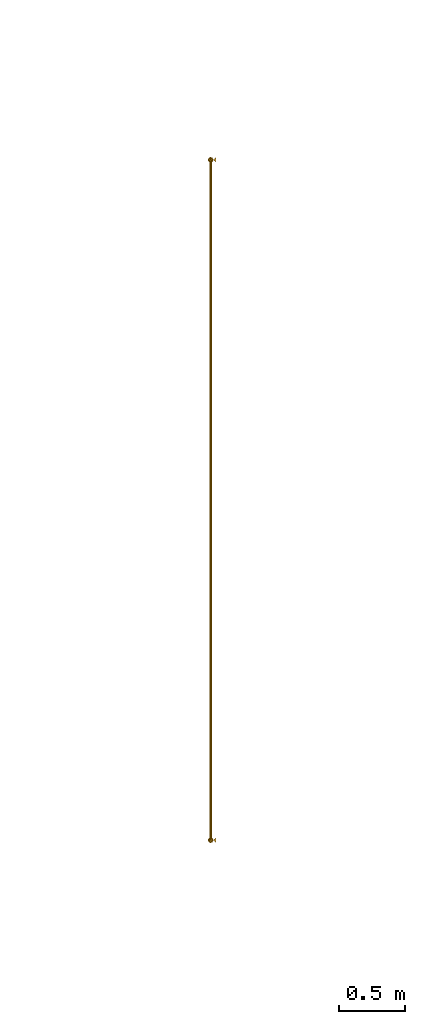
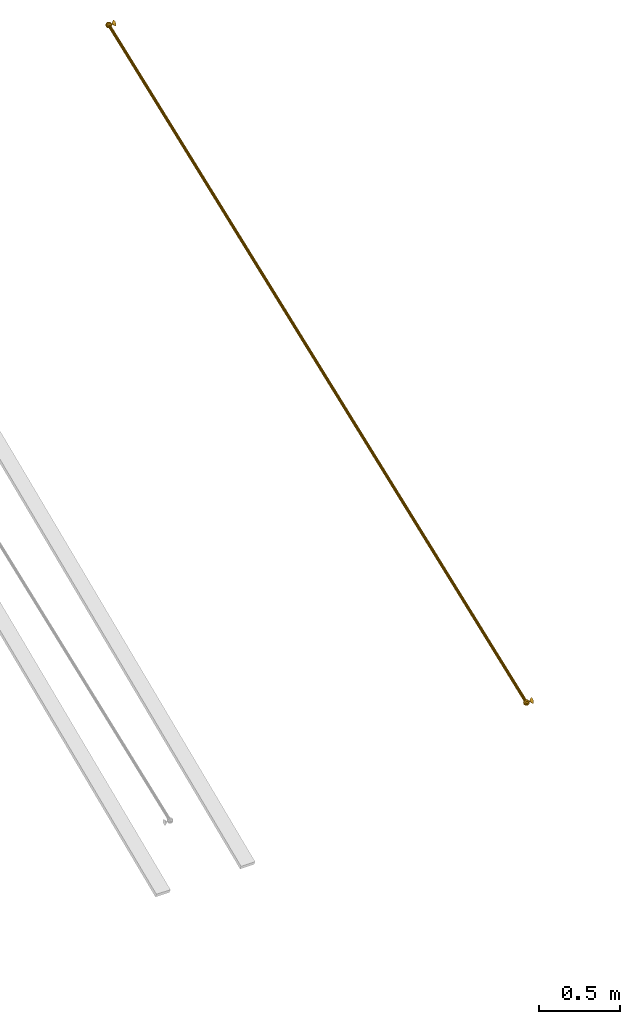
# One storey, part 113 of 194: 1 railing.
"""IFC2X3 building model written with IfcOpenShell, lengths in millimetres."""

from ifc_helpers import new_model, entity, si_unit, converted_unit, derived_unit, money_unit, direction, frame, origin_with_axes, place, context, subcontext, project, spatial, faceted_brep, type_object, element, save


model = new_model("IFC2X3")

# Units and contexts
model_context = context("Model", 3, precision=1e-05, world=origin_with_axes(), true_north=direction((0.0, 1.0)))
body_context = subcontext(model_context, "Body", "Model", "MODEL_VIEW")
ifc_project = project(units=[si_unit("LENGTHUNIT", "METRE", prefix="MILLI"), si_unit("AREAUNIT", "SQUARE_METRE"), si_unit("VOLUMEUNIT", "CUBIC_METRE"), converted_unit("PLANEANGLEUNIT", "DEGREE", entity("IfcPlaneAngleMeasure", 0.0174532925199), si_unit("PLANEANGLEUNIT", "RADIAN"), dimensions=[0, 0, 0, 0, 0, 0, 0]), si_unit("SOLIDANGLEUNIT", "STERADIAN"), money_unit("EUR"), converted_unit("TIMEUNIT", "Year", entity("IfcTimeMeasure", 31556926.0), si_unit("TIMEUNIT", "SECOND"), dimensions=[0, 0, 1, 0, 0, 0, 0]), si_unit("MASSUNIT", "GRAM", prefix="KILO"), si_unit("THERMODYNAMICTEMPERATUREUNIT", "DEGREE_CELSIUS"), si_unit("LUMINOUSINTENSITYUNIT", "LUMEN"), si_unit("ENERGYUNIT", "JOULE", prefix="MEGA"), derived_unit("THERMALCONDUCTANCEUNIT", [(si_unit("POWERUNIT", "WATT"), 1), (si_unit("LENGTHUNIT", "METRE"), -1), (si_unit("THERMODYNAMICTEMPERATUREUNIT", "KELVIN"), -1)]), derived_unit("SPECIFICHEATCAPACITYUNIT", [(si_unit("ENERGYUNIT", "JOULE"), 1), (si_unit("MASSUNIT", "GRAM", prefix="KILO"), -1), (si_unit("THERMODYNAMICTEMPERATUREUNIT", "KELVIN"), -1)]), derived_unit("MASSDENSITYUNIT", [(si_unit("MASSUNIT", "GRAM", prefix="KILO"), 1), (si_unit("VOLUMEUNIT", "CUBIC_METRE"), -1)])], contexts=[model_context])

# Site, building, storey
site_placement = place(None, origin_with_axes())
site = spatial("IfcSite", under=ifc_project, at=site_placement, Name="Site", CompositionType="ELEMENT")
building_placement = place(site_placement, origin_with_axes())
building = spatial("IfcBuilding", under=site, at=building_placement, Name="Building", CompositionType="ELEMENT")
storey_placement = place(building_placement, frame((0.0, 0.0, 3000.0), z_axis=(0.0, 0.0, 1.0), x_axis=(1.0, 0.0, 0.0)))
storey = spatial("IfcBuildingStorey", under=building, at=storey_placement, Name="2 KORRUS", CompositionType="ELEMENT", Elevation=3000.0)

# Railing
railing_type = type_object("IfcRailingType", Name="TR 7 käepiire", PredefinedType="NOTDEFINED")
railing_placement = place(storey_placement, frame((99913.693776, 52313.9889357, -92.5), z_axis=(0.0, 0.0, 1.0), x_axis=(0.0, -1.0, 0.0)))
element("IfcRailing", 1, at=railing_placement, inside=storey, type_object=railing_type, Name="FU - 002", PredefinedType="NOTDEFINED", context=body_context, shape_type="Brep", body=[
    faceted_brep([(-2547.36983293, -40.0, 14.5074874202), (-2553.96956546, -40.0, 18.6716085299), (-2547.91373767, -42.9289321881, 14.716272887), (-2547.91373767, -37.0710678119, 14.716272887), (-2549.46264731, -45.4119610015, 15.3108435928), (-2542.86601529, -40.0, 8.13473286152), (-2543.8710202, -45.4119610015, 8.52051810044), (-2549.46264731, -34.5880389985, 15.3108435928), (-2543.8710202, -34.5880389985, 8.52051810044), (-2551.78075441, -47.0710678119, 16.2006815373), (-2546.73303204, -50.0, 9.61914151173), (-2541.14377795, -40.0, 0.523538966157), (-2542.45688014, -47.0710678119, 1.02759167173), (-2551.78075441, -32.9289321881, 16.2006815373), (-2546.73303204, -30.0, 9.61914151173), (-2542.45688014, -32.9289321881, 1.02759167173), (-2554.51514817, -47.6536686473, 17.2503169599), (-2551.01633544, -53.0656296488, 11.2633476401), (-2546.19627881, -53.0656296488, 2.46301233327), (-2542.46531592, -40.0, -7.16735899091), (-2543.88660749, -47.6536686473, -6.62177627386), (-2554.51514817, -32.3463313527, 17.2503169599), (-2551.01633544, -26.9343703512, 11.2633476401), (-2546.19627881, -26.9343703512, 2.46301233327), (-2543.88660749, -32.3463313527, -6.62177627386), (-2557.24954194, -47.0710678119, 18.2999523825), (-2556.0688363, -54.1421356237, 13.2028210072), (-2551.7926844, -57.0710678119, 4.61127116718), (-2547.93410344, -54.1421356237, -5.06808814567), (-2546.62943703, -40.0, -13.7670915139), (-2547.94253922, -47.0710678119, -13.2630388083), (-2557.24954194, -32.9289321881, 18.2999523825), (-2556.0688363, -25.8578643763, 13.2028210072), (-2551.7926844, -22.9289321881, 4.61127116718), (-2547.93410344, -25.8578643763, -5.06808814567), (-2547.94253922, -32.9289321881, -13.2630388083), (-2559.56764903, -45.4119610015, 19.189790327), (-2561.12133716, -53.0656296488, 15.1422943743), (-2558.39409491, -58.4775906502, 7.14531524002), (-2553.99160921, -58.4775906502, -2.74282953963), (-2551.68193789, -53.0656296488, -11.8276181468), (-2553.00219159, -40.0, -18.2709091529), (-2554.00719649, -45.4119610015, -17.8851239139), (-2559.56764903, -34.5880389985, 19.189790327), (-2561.12133716, -26.9343703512, 15.1422943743), (-2558.39409491, -21.5224093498, 7.14531524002), (-2553.99160921, -21.5224093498, -2.74282953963), (-2551.68193789, -26.9343703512, -11.8276181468), (-2554.00719649, -34.5880389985, -17.8851239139), (-2561.11655868, -42.9289321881, 19.7843610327), (-2565.40464057, -50.0, 16.7865005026), (-2564.99550541, -57.0710678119, 9.67935931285), (-2561.13692445, -60.0, 0.0), (-2557.27834348, -57.0710678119, -9.67935931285), (-2556.86920833, -50.0, -16.7865005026), (-2560.61338548, -40.0, -19.9931464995), (-2561.15729022, -42.9289321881, -19.7843610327), (-2561.11655868, -37.0710678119, 19.7843610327), (-2565.40464057, -30.0, 16.7865005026), (-2564.99550541, -22.9289321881, 9.67935931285), (-2561.13692445, -20.0, 0.0), (-2557.27834348, -22.9289321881, -9.67935931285), (-2556.86920833, -30.0, -16.7865005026), (-2561.15729022, -37.0710678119, -19.7843610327), (-2561.66046341, -40.0, 19.9931464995), (-2568.2666524, -45.4119610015, 17.8851239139), (-2570.59191101, -53.0656296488, 11.8276181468), (-2568.28223969, -58.4775906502, 2.74282953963), (-2563.87975399, -58.4775906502, -7.14531524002), (-2561.15251173, -53.0656296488, -15.1422943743), (-2562.70619986, -45.4119610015, -19.189790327), (-2568.30428344, -40.0, -18.6716085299), (-2568.2666524, -34.5880389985, 17.8851239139), (-2570.59191101, -26.9343703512, 11.8276181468), (-2568.28223969, -21.5224093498, 2.74282953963), (-2563.87975399, -21.5224093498, -7.14531524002), (-2561.15251173, -26.9343703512, -15.1422943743), (-2562.70619986, -34.5880389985, -19.189790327), (-2569.27165731, -40.0, 18.2709091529), (-2574.33130968, -47.0710678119, 13.2630388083), (-2574.33974545, -54.1421356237, 5.06808814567), (-2570.48116449, -57.0710678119, -4.61127116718), (-2566.20501259, -54.1421356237, -13.2028210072), (-2565.02430696, -47.0710678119, -18.2999523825), (-2574.33130968, -32.9289321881, 13.2630388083), (-2574.33974545, -25.8578643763, 5.06808814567), (-2570.48116449, -22.9289321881, -4.61127116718), (-2566.20501259, -25.8578643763, -13.2028210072), (-2565.02430696, -32.9289321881, -18.2999523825), (-2575.64441187, -40.0, 13.7670915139), (-2578.38724141, -47.6536686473, 6.62177627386), (-2576.07757009, -53.0656296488, -2.46301233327), (-2571.25751345, -53.0656296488, -11.2633476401), (-2567.75870072, -47.6536686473, -17.2503169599), (-2578.38724141, -32.3463313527, 6.62177627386), (-2576.07757009, -26.9343703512, -2.46301233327), (-2571.25751345, -26.9343703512, -11.2633476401), (-2567.75870072, -32.3463313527, -17.2503169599), (-2579.80853298, -40.0, 7.16735899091), (-2579.81696876, -47.0710678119, -1.02759167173), (-2575.54081686, -50.0, -9.61914151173), (-2570.49309448, -47.0710678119, -16.2006815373), (-2579.81696876, -32.9289321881, -1.02759167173), (-2575.54081686, -30.0, -9.61914151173), (-2570.49309448, -32.9289321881, -16.2006815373), (-2581.13007095, -40.0, -0.523538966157), (-2578.40282869, -45.4119610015, -8.52051810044), (-2572.81120158, -45.4119610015, -15.3108435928), (-2578.40282869, -34.5880389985, -8.52051810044), (-2572.81120158, -34.5880389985, -15.3108435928), (-2579.4078336, -40.0, -8.13473286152), (-2574.36011122, -42.9289321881, -14.716272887), (-2574.36011122, -37.0710678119, -14.716272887), (-2574.90401596, -40.0, -14.5074874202)], [[[0, 1, 2]], [[3, 1, 0]], [[2, 1, 4]], [[5, 0, 2, 6]], [[7, 1, 3]], [[8, 3, 0, 5]], [[4, 1, 9]], [[6, 2, 4, 10]], [[11, 5, 6, 12]], [[13, 1, 7]], [[14, 7, 3, 8]], [[15, 8, 5, 11]], [[9, 1, 16]], [[10, 4, 9, 17]], [[12, 6, 10, 18]], [[19, 11, 12, 20]], [[21, 1, 13]], [[22, 13, 7, 14]], [[23, 14, 8, 15]], [[24, 15, 11, 19]], [[16, 1, 25]], [[17, 9, 16, 26]], [[18, 10, 17, 27]], [[20, 12, 18, 28]], [[29, 19, 20, 30]], [[31, 1, 21]], [[32, 21, 13, 22]], [[33, 22, 14, 23]], [[34, 23, 15, 24]], [[35, 24, 19, 29]], [[25, 1, 36]], [[26, 16, 25, 37]], [[27, 17, 26, 38]], [[28, 18, 27, 39]], [[30, 20, 28, 40]], [[41, 29, 30, 42]], [[43, 1, 31]], [[44, 31, 21, 32]], [[45, 32, 22, 33]], [[46, 33, 23, 34]], [[47, 34, 24, 35]], [[48, 35, 29, 41]], [[36, 1, 49]], [[37, 25, 36, 50]], [[38, 26, 37, 51]], [[39, 27, 38, 52]], [[40, 28, 39, 53]], [[42, 30, 40, 54]], [[55, 41, 42, 56]], [[57, 1, 43]], [[58, 43, 31, 44]], [[59, 44, 32, 45]], [[60, 45, 33, 46]], [[61, 46, 34, 47]], [[62, 47, 35, 48]], [[63, 48, 41, 55]], [[49, 1, 64]], [[50, 36, 49, 65]], [[51, 37, 50, 66]], [[52, 38, 51, 67]], [[53, 39, 52, 68]], [[54, 40, 53, 69]], [[56, 42, 54, 70]], [[71, 55, 56]], [[64, 1, 57]], [[72, 57, 43, 58]], [[73, 58, 44, 59]], [[74, 59, 45, 60]], [[75, 60, 46, 61]], [[76, 61, 47, 62]], [[77, 62, 48, 63]], [[71, 63, 55]], [[65, 49, 64, 78]], [[66, 50, 65, 79]], [[67, 51, 66, 80]], [[68, 52, 67, 81]], [[69, 53, 68, 82]], [[70, 54, 69, 83]], [[71, 56, 70]], [[78, 64, 57, 72]], [[84, 72, 58, 73]], [[85, 73, 59, 74]], [[86, 74, 60, 75]], [[87, 75, 61, 76]], [[88, 76, 62, 77]], [[71, 77, 63]], [[79, 65, 78, 89]], [[80, 66, 79, 90]], [[81, 67, 80, 91]], [[82, 68, 81, 92]], [[83, 69, 82, 93]], [[71, 70, 83]], [[89, 78, 72, 84]], [[94, 84, 73, 85]], [[95, 85, 74, 86]], [[96, 86, 75, 87]], [[97, 87, 76, 88]], [[71, 88, 77]], [[90, 79, 89, 98]], [[91, 80, 90, 99]], [[92, 81, 91, 100]], [[93, 82, 92, 101]], [[71, 83, 93]], [[98, 89, 84, 94]], [[102, 94, 85, 95]], [[103, 95, 86, 96]], [[104, 96, 87, 97]], [[71, 97, 88]], [[99, 90, 98, 105]], [[100, 91, 99, 106]], [[101, 92, 100, 107]], [[71, 93, 101]], [[105, 98, 94, 102]], [[108, 102, 95, 103]], [[109, 103, 96, 104]], [[71, 104, 97]], [[106, 99, 105, 110]], [[107, 100, 106, 111]], [[71, 101, 107]], [[110, 105, 102, 108]], [[112, 108, 103, 109]], [[71, 109, 104]], [[111, 106, 110, 113]], [[71, 107, 111]], [[113, 110, 108, 112]], [[71, 112, 109]], [[71, 111, 113]], [[71, 113, 112]]]),
    faceted_brep([(-2575.64441187, 0.0, 13.7670915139), (-2579.80853298, 0.0, 7.16735899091), (-2561.13692445, -20.487804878, 0.0), (-2569.27165731, 0.0, 18.2709091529), (-2561.66046341, 0.0, 19.9931464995), (-2553.96956546, 0.0, 18.6716085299), (-2547.36983293, 0.0, 14.5074874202), (-2542.86601529, 0.0, 8.13473286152), (-2541.14377795, 0.0, 0.523538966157), (-2542.46531592, 0.0, -7.16735899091), (-2546.62943703, 0.0, -13.7670915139), (-2553.00219159, 0.0, -18.2709091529), (-2560.61338548, 0.0, -19.9931464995), (-2568.30428344, 0.0, -18.6716085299), (-2574.90401596, 0.0, -14.5074874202), (-2579.4078336, 0.0, -8.13473286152), (-2581.13007095, 0.0, -0.523538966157)], [[[0, 1, 2]], [[1, 0, 3, 4, 5, 6, 7, 8, 9, 10, 11, 12, 13, 14, 15, 16]], [[1, 16, 2]], [[3, 0, 2]], [[4, 3, 2]], [[5, 4, 2]], [[6, 5, 2]], [[7, 6, 2]], [[8, 7, 2]], [[9, 8, 2]], [[10, 9, 2]], [[11, 10, 2]], [[12, 11, 2]], [[13, 12, 2]], [[14, 13, 2]], [[15, 14, 2]], [[16, 15, 2]]]),
    faceted_brep([(-2564.44781258, -43.8268343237, -8.62515847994), (-2563.67096852, -47.0710678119, -6.60141050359), (-2562.50833922, -49.2387953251, -3.57265762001), (-2561.13692445, -50.0, 0.0), (-2559.76550968, -49.2387953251, 3.57265762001), (-2558.60288037, -47.0710678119, 6.60141050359), (-2557.82603631, -43.8268343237, 8.62515847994), (-2557.55324495, -40.0, 9.33580426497), (-2557.82603631, -36.1731656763, 8.62515847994), (-2558.60288037, -32.9289321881, 6.60141050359), (-2559.76550968, -30.7612046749, 3.57265762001), (-2561.13692445, -30.0, 0.0), (-2562.50833922, -30.7612046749, -3.57265762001), (-2563.67096852, -32.9289321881, -6.60141050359), (-2564.44781258, -36.1731656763, -8.62515847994), (-2564.72060394, -40.0, -9.33580426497), (2560.48281925, -43.8268343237, -1975.90171009), (2561.25966331, -47.0710678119, -1973.87796212), (2562.42229262, -49.2387953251, -1970.84920923), (2563.79370739, -50.0, -1967.27655161), (2565.16512216, -49.2387953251, -1963.70389399), (2566.32775146, -47.0710678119, -1960.67514111), (2567.10459552, -43.8268343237, -1958.65139313), (2567.37738688, -40.0, -1957.94074735), (2567.10459552, -36.1731656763, -1958.65139313), (2566.32775146, -32.9289321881, -1960.67514111), (2565.16512216, -30.7612046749, -1963.70389399), (2563.79370739, -30.0, -1967.27655161), (2562.42229262, -30.7612046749, -1970.84920923), (2561.25966331, -32.9289321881, -1973.87796212), (2560.48281925, -36.1731656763, -1975.90171009), (2560.21002789, -40.0, -1976.61235588)], [[[0, 1, 2, 3, 4, 5, 6, 7, 8, 9, 10, 11, 12, 13, 14, 15]], [[1, 0, 16, 17]], [[2, 1, 17, 18]], [[3, 2, 18, 19]], [[4, 3, 19, 20]], [[5, 4, 20, 21]], [[6, 5, 21, 22]], [[7, 6, 22, 23]], [[8, 7, 23, 24]], [[9, 8, 24, 25]], [[10, 9, 25, 26]], [[11, 10, 26, 27]], [[12, 11, 27, 28]], [[13, 12, 28, 29]], [[14, 13, 29, 30]], [[15, 14, 30, 31]], [[0, 15, 31, 16]], [[16, 31, 30, 29, 28, 27, 26, 25, 24, 23, 22, 21, 20, 19, 18, 17]]]),
    faceted_brep([(2577.5607989, -40.0, -1952.76906419), (2570.96106638, -40.0, -1948.60494308), (2577.01689417, -42.9289321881, -1952.56027873), (2577.01689417, -37.0710678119, -1952.56027873), (2575.46798452, -45.4119610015, -1951.96570802), (2582.06461654, -40.0, -1959.14181875), (2581.05961163, -45.4119610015, -1958.75603351), (2575.46798452, -34.5880389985, -1951.96570802), (2581.05961163, -34.5880389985, -1958.75603351), (2573.14987742, -47.0710678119, -1951.07587008), (2578.1975998, -50.0, -1957.6574101), (2583.78685389, -40.0, -1966.75301265), (2582.4737517, -47.0710678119, -1966.24895994), (2573.14987742, -32.9289321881, -1951.07587008), (2578.1975998, -30.0, -1957.6574101), (2582.4737517, -32.9289321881, -1966.24895994), (2570.41548366, -47.6536686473, -1950.02623465), (2573.91429639, -53.0656296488, -1956.01320397), (2578.73435303, -53.0656296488, -1964.81353928), (2582.46531592, -40.0, -1974.4439106), (2581.04402435, -47.6536686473, -1973.89832789), (2570.41548366, -32.3463313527, -1950.02623465), (2573.91429639, -26.9343703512, -1956.01320397), (2578.73435303, -26.9343703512, -1964.81353928), (2581.04402435, -32.3463313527, -1973.89832789), (2567.6810899, -47.0710678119, -1948.97659923), (2568.86179553, -54.1421356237, -1954.07373061), (2573.13794743, -57.0710678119, -1962.66528045), (2576.99652839, -54.1421356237, -1972.34463976), (2578.30119481, -40.0, -1981.04364313), (2576.98809262, -47.0710678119, -1980.53959042), (2567.6810899, -32.9289321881, -1948.97659923), (2568.86179553, -25.8578643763, -1954.07373061), (2573.13794743, -22.9289321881, -1962.66528045), (2576.99652839, -25.8578643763, -1972.34463976), (2576.98809262, -32.9289321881, -1980.53959042), (2565.3629828, -45.4119610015, -1948.08676129), (2563.80929467, -53.0656296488, -1952.13425724), (2566.53653693, -58.4775906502, -1960.13123637), (2570.93902263, -58.4775906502, -1970.01938115), (2573.24869395, -53.0656296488, -1979.10416976), (2571.92844025, -40.0, -1985.54746077), (2570.92343534, -45.4119610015, -1985.16167553), (2565.3629828, -34.5880389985, -1948.08676129), (2563.80929467, -26.9343703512, -1952.13425724), (2566.53653693, -21.5224093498, -1960.13123637), (2570.93902263, -21.5224093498, -1970.01938115), (2573.24869395, -26.9343703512, -1979.10416976), (2570.92343534, -34.5880389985, -1985.16167553), (2563.81407316, -42.9289321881, -1947.49219058), (2559.52599127, -50.0, -1950.49005111), (2559.93512642, -57.0710678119, -1957.5971923), (2563.79370739, -60.0, -1967.27655161), (2567.65228835, -57.0710678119, -1976.95591093), (2568.06142351, -50.0, -1984.06305212), (2564.31724635, -40.0, -1987.26969811), (2563.77334162, -42.9289321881, -1987.06091265), (2563.81407316, -37.0710678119, -1947.49219058), (2559.52599127, -30.0, -1950.49005111), (2559.93512642, -22.9289321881, -1957.5971923), (2563.79370739, -20.0, -1967.27655161), (2567.65228835, -22.9289321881, -1976.95591093), (2568.06142351, -30.0, -1984.06305212), (2563.77334162, -37.0710678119, -1987.06091265), (2563.27016842, -40.0, -1947.28340511), (2556.66397943, -45.4119610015, -1949.3914277), (2554.33872083, -53.0656296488, -1955.44893347), (2556.64839215, -58.4775906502, -1964.53372207), (2561.05087785, -58.4775906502, -1974.42186685), (2563.7781201, -53.0656296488, -1982.41884599), (2562.22443197, -45.4119610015, -1986.46634194), (2556.6263484, -40.0, -1985.94816014), (2556.66397943, -34.5880389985, -1949.3914277), (2554.33872083, -26.9343703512, -1955.44893347), (2556.64839215, -21.5224093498, -1964.53372207), (2561.05087785, -21.5224093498, -1974.42186685), (2563.7781201, -26.9343703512, -1982.41884599), (2562.22443197, -34.5880389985, -1986.46634194), (2555.65897453, -40.0, -1949.00564246), (2550.59932216, -47.0710678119, -1954.0135128), (2550.59088638, -54.1421356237, -1962.20846347), (2554.44946734, -57.0710678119, -1971.88782278), (2558.72561924, -54.1421356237, -1980.47937262), (2559.90632488, -47.0710678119, -1985.576504), (2550.59932216, -32.9289321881, -1954.0135128), (2550.59088638, -25.8578643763, -1962.20846347), (2554.44946734, -22.9289321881, -1971.88782278), (2558.72561924, -25.8578643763, -1980.47937262), (2559.90632488, -32.9289321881, -1985.576504), (2549.28621997, -40.0, -1953.5094601), (2546.54339043, -47.6536686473, -1960.65477534), (2548.85306175, -53.0656296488, -1969.73956395), (2553.67311838, -53.0656296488, -1978.53989925), (2557.17193111, -47.6536686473, -1984.52686857), (2546.54339043, -32.3463313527, -1960.65477534), (2548.85306175, -26.9343703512, -1969.73956395), (2553.67311838, -26.9343703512, -1978.53989925), (2557.17193111, -32.3463313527, -1984.52686857), (2545.12209886, -40.0, -1960.10919262), (2545.11366308, -47.0710678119, -1968.30414328), (2549.38981498, -50.0, -1976.89569312), (2554.43753735, -47.0710678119, -1983.47723315), (2545.11366308, -32.9289321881, -1968.30414328), (2549.38981498, -30.0, -1976.89569312), (2554.43753735, -32.9289321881, -1983.47723315), (2543.80056089, -40.0, -1967.80009058), (2546.52780314, -45.4119610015, -1975.79706971), (2552.11943025, -45.4119610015, -1982.58739521), (2546.52780314, -34.5880389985, -1975.79706971), (2552.11943025, -34.5880389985, -1982.58739521), (2545.52279823, -40.0, -1975.41128447), (2550.57052061, -42.9289321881, -1981.9928245), (2550.57052061, -37.0710678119, -1981.9928245), (2550.02661587, -40.0, -1981.78403903)], [[[0, 1, 2]], [[3, 1, 0]], [[2, 1, 4]], [[5, 0, 2, 6]], [[7, 1, 3]], [[8, 3, 0, 5]], [[4, 1, 9]], [[6, 2, 4, 10]], [[11, 5, 6, 12]], [[13, 1, 7]], [[14, 7, 3, 8]], [[15, 8, 5, 11]], [[9, 1, 16]], [[10, 4, 9, 17]], [[12, 6, 10, 18]], [[19, 11, 12, 20]], [[21, 1, 13]], [[22, 13, 7, 14]], [[23, 14, 8, 15]], [[24, 15, 11, 19]], [[16, 1, 25]], [[17, 9, 16, 26]], [[18, 10, 17, 27]], [[20, 12, 18, 28]], [[29, 19, 20, 30]], [[31, 1, 21]], [[32, 21, 13, 22]], [[33, 22, 14, 23]], [[34, 23, 15, 24]], [[35, 24, 19, 29]], [[25, 1, 36]], [[26, 16, 25, 37]], [[27, 17, 26, 38]], [[28, 18, 27, 39]], [[30, 20, 28, 40]], [[41, 29, 30, 42]], [[43, 1, 31]], [[44, 31, 21, 32]], [[45, 32, 22, 33]], [[46, 33, 23, 34]], [[47, 34, 24, 35]], [[48, 35, 29, 41]], [[36, 1, 49]], [[37, 25, 36, 50]], [[38, 26, 37, 51]], [[39, 27, 38, 52]], [[40, 28, 39, 53]], [[42, 30, 40, 54]], [[55, 41, 42, 56]], [[57, 1, 43]], [[58, 43, 31, 44]], [[59, 44, 32, 45]], [[60, 45, 33, 46]], [[61, 46, 34, 47]], [[62, 47, 35, 48]], [[63, 48, 41, 55]], [[49, 1, 64]], [[50, 36, 49, 65]], [[51, 37, 50, 66]], [[52, 38, 51, 67]], [[53, 39, 52, 68]], [[54, 40, 53, 69]], [[56, 42, 54, 70]], [[71, 55, 56]], [[64, 1, 57]], [[72, 57, 43, 58]], [[73, 58, 44, 59]], [[74, 59, 45, 60]], [[75, 60, 46, 61]], [[76, 61, 47, 62]], [[77, 62, 48, 63]], [[71, 63, 55]], [[65, 49, 64, 78]], [[66, 50, 65, 79]], [[67, 51, 66, 80]], [[68, 52, 67, 81]], [[69, 53, 68, 82]], [[70, 54, 69, 83]], [[71, 56, 70]], [[78, 64, 57, 72]], [[84, 72, 58, 73]], [[85, 73, 59, 74]], [[86, 74, 60, 75]], [[87, 75, 61, 76]], [[88, 76, 62, 77]], [[71, 77, 63]], [[79, 65, 78, 89]], [[80, 66, 79, 90]], [[81, 67, 80, 91]], [[82, 68, 81, 92]], [[83, 69, 82, 93]], [[71, 70, 83]], [[89, 78, 72, 84]], [[94, 84, 73, 85]], [[95, 85, 74, 86]], [[96, 86, 75, 87]], [[97, 87, 76, 88]], [[71, 88, 77]], [[90, 79, 89, 98]], [[91, 80, 90, 99]], [[92, 81, 91, 100]], [[93, 82, 92, 101]], [[71, 83, 93]], [[98, 89, 84, 94]], [[102, 94, 85, 95]], [[103, 95, 86, 96]], [[104, 96, 87, 97]], [[71, 97, 88]], [[99, 90, 98, 105]], [[100, 91, 99, 106]], [[101, 92, 100, 107]], [[71, 93, 101]], [[105, 98, 94, 102]], [[108, 102, 95, 103]], [[109, 103, 96, 104]], [[71, 104, 97]], [[106, 99, 105, 110]], [[107, 100, 106, 111]], [[71, 101, 107]], [[110, 105, 102, 108]], [[112, 108, 103, 109]], [[71, 109, 104]], [[111, 106, 110, 113]], [[71, 107, 111]], [[113, 110, 108, 112]], [[71, 112, 109]], [[71, 111, 113]], [[71, 113, 112]]]),
    faceted_brep([(2549.28621997, 0.0, -1953.5094601), (2545.12209886, 0.0, -1960.10919262), (2563.79370739, -20.487804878, -1967.27655161), (2555.65897453, 0.0, -1949.00564246), (2563.27016842, 0.0, -1947.28340511), (2570.96106638, 0.0, -1948.60494308), (2577.5607989, 0.0, -1952.76906419), (2582.06461654, 0.0, -1959.14181875), (2583.78685389, 0.0, -1966.75301265), (2582.46531592, 0.0, -1974.4439106), (2578.30119481, 0.0, -1981.04364313), (2571.92844025, 0.0, -1985.54746077), (2564.31724635, 0.0, -1987.26969811), (2556.6263484, 0.0, -1985.94816014), (2550.02661587, 0.0, -1981.78403903), (2545.52279823, 0.0, -1975.41128447), (2543.80056089, 0.0, -1967.80009058)], [[[0, 1, 2]], [[1, 0, 3, 4, 5, 6, 7, 8, 9, 10, 11, 12, 13, 14, 15, 16]], [[1, 16, 2]], [[3, 0, 2]], [[4, 3, 2]], [[5, 4, 2]], [[6, 5, 2]], [[7, 6, 2]], [[8, 7, 2]], [[9, 8, 2]], [[10, 9, 2]], [[11, 10, 2]], [[12, 11, 2]], [[13, 12, 2]], [[14, 13, 2]], [[15, 14, 2]], [[16, 15, 2]]]),
])

save(model, "model.ifc")
